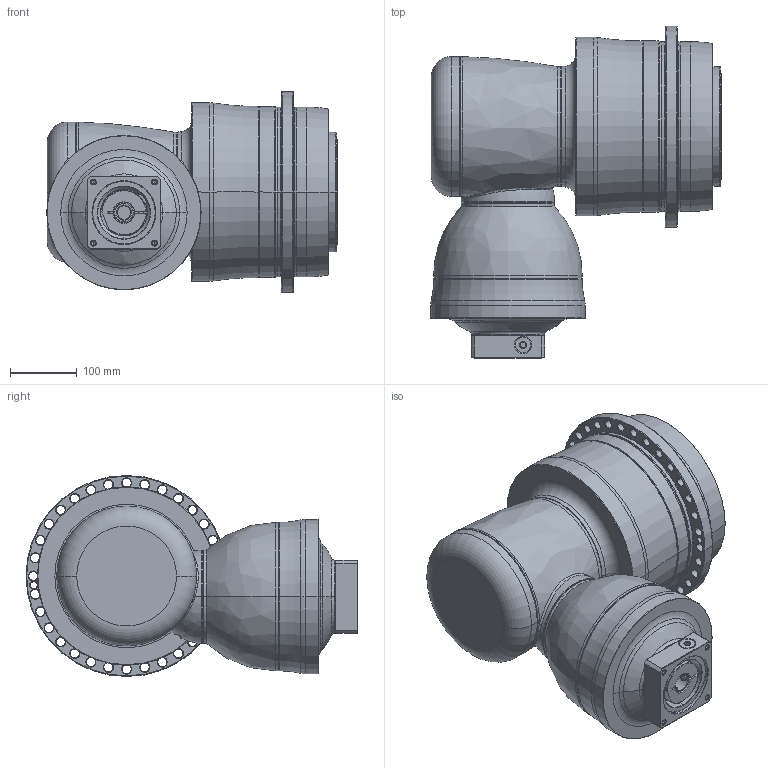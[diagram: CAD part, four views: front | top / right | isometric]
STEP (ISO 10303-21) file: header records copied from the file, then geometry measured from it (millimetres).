
FILE_DESCRIPTION((''),'2;1');
FILE_NAME('APK255_4ST_28-P0409610201_ASM','2018-10-04T',('D00080'),(''),'PRO/ENGINEER BY PARAMETRIC TECHNOLOGY CORPORATION, 2015240','PRO/ENGINEER BY PARAMETRIC TECHNOLOGY CORPORATION, 2015240','');
FILE_SCHEMA(('CONFIG_CONTROL_DESIGN'));
Length unit declared in the file: millimetre
Products named in the file (13): P1008600002; P1832700001; P0278701003; P0359701103; P1211700001; P1315600001; P1007601001; P1317610101; P0503600010; P0912551001; P0409610201; 21711418017; APK255_4ST_28-P0409610201_ASM
Assembly tree (12 placements, depth 2):
  APK255_4ST_28-P0409610201_ASM
    P1008600002
    P1832700001
    P0278701003
    P0359701103
    P1211700001
    P1315600001
    P1007601001
    P1317610101
    P0503600010
    P0912551001
    P0409610201
    21711418017
Bounding box: 436.5 x 498.5 x 302 mm (x, y, z)
Volume: 23742027.3 mm3; surface area: 1414399.5 mm2
Topology: 13 solids, 36 shells, 814 faces, 1905 edges, 1138 vertices
Faces by surface type: cylinder 310, cone 257, plane 121, torus 89, bspline 35, sphere 2
Entity records: 30063 total; most frequent: CARTESIAN_POINT 10749, DIRECTION 4443, ORIENTED_EDGE 3640, AXIS2_PLACEMENT_3D 1905, EDGE_CURVE 1867, VERTEX_POINT 1138, CIRCLE 1089, EDGE_LOOP 957
